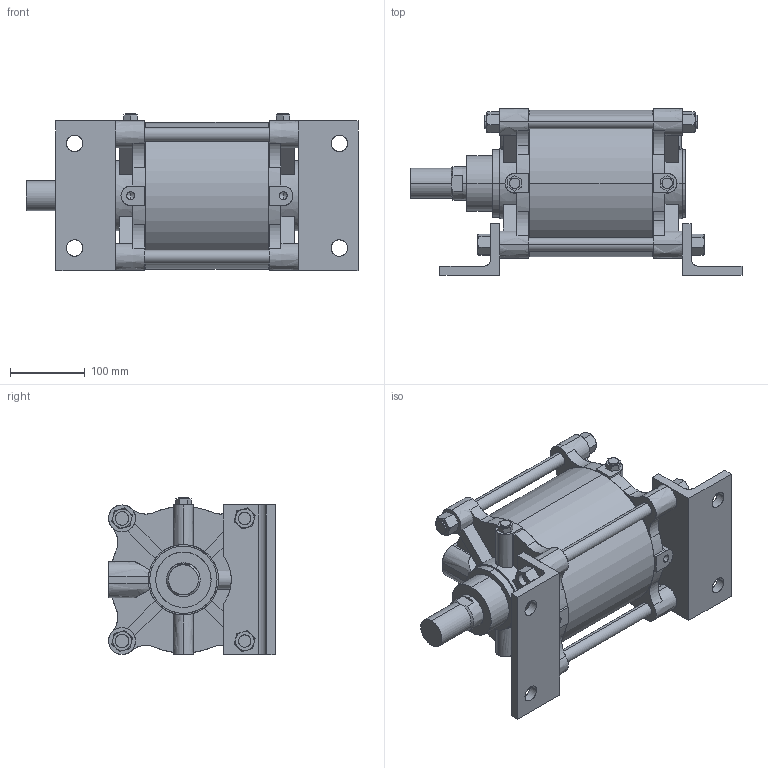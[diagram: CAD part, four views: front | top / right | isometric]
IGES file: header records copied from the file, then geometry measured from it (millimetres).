
Start section: SolidWorks IGES file using analytic representation for surfaces
Global section: file name: C:\Users\Toshiba\Desktop\A##2-180#-100-L.IGS; native system: SolidWorks 2014; preprocessor: SolidWorks 2014; author: Toshiba; date: 160331.145833; units: millimetre
Bounding box: 444 x 223 x 210 mm (x, y, z)
Surface area: 653550.4 mm2 (no closed solid volume)
Topology: 0 solids, 0 shells, 422 faces, 7913 edges, 7901 vertices
Faces by surface type: bspline 264, revolution 158
